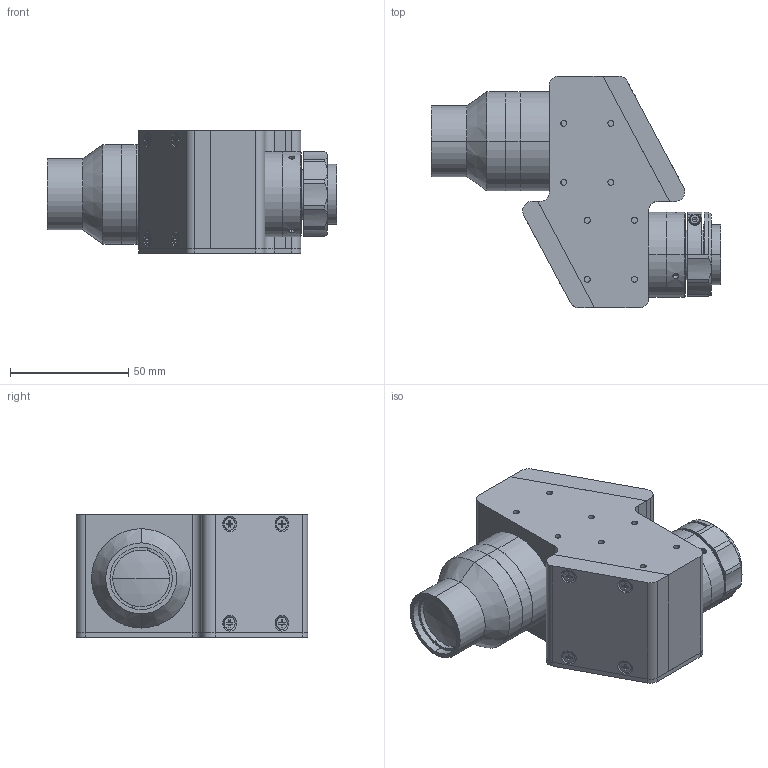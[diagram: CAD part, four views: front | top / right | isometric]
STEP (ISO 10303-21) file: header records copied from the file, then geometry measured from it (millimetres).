
FILE_DESCRIPTION (( 'STEP AP203' ), '1' );
FILE_NAME ('XF-MH095X157.STEP', '2020-08-24T07:12:02', ( 'canrill-02' ), ( '' ), 'SwSTEP 2.0', 'SolidWorks 2014', '' );
FILE_SCHEMA (( 'CONFIG_CONTROL_DESIGN' ));
Length unit declared in the file: millimetre
Products named in the file (1): XF-MH095X157
Bounding box: 122.5 x 98 x 52 mm (x, y, z)
Surface area: 41681.3 mm2 (no closed solid volume)
Topology: 0 solids, 30 shells, 429 faces, 1347 edges, 930 vertices
Faces by surface type: plane 219, cylinder 163, cone 43, sphere 2, torus 2
Entity records: 15289 total; most frequent: CARTESIAN_POINT 3026, DIRECTION 2654, ORIENTED_EDGE 2265, EDGE_CURVE 1345, VERTEX_POINT 930, AXIS2_PLACEMENT_3D 902, LINE 850, VECTOR 850
